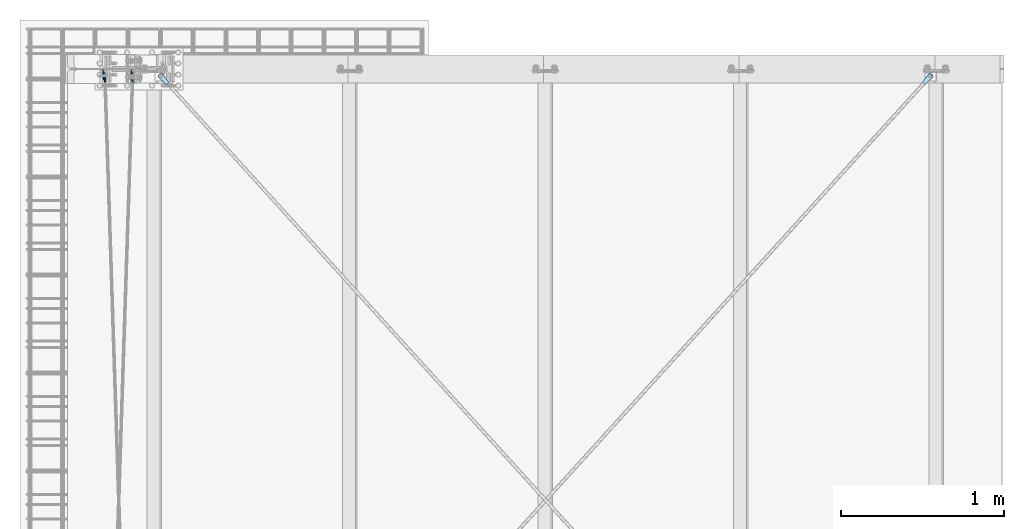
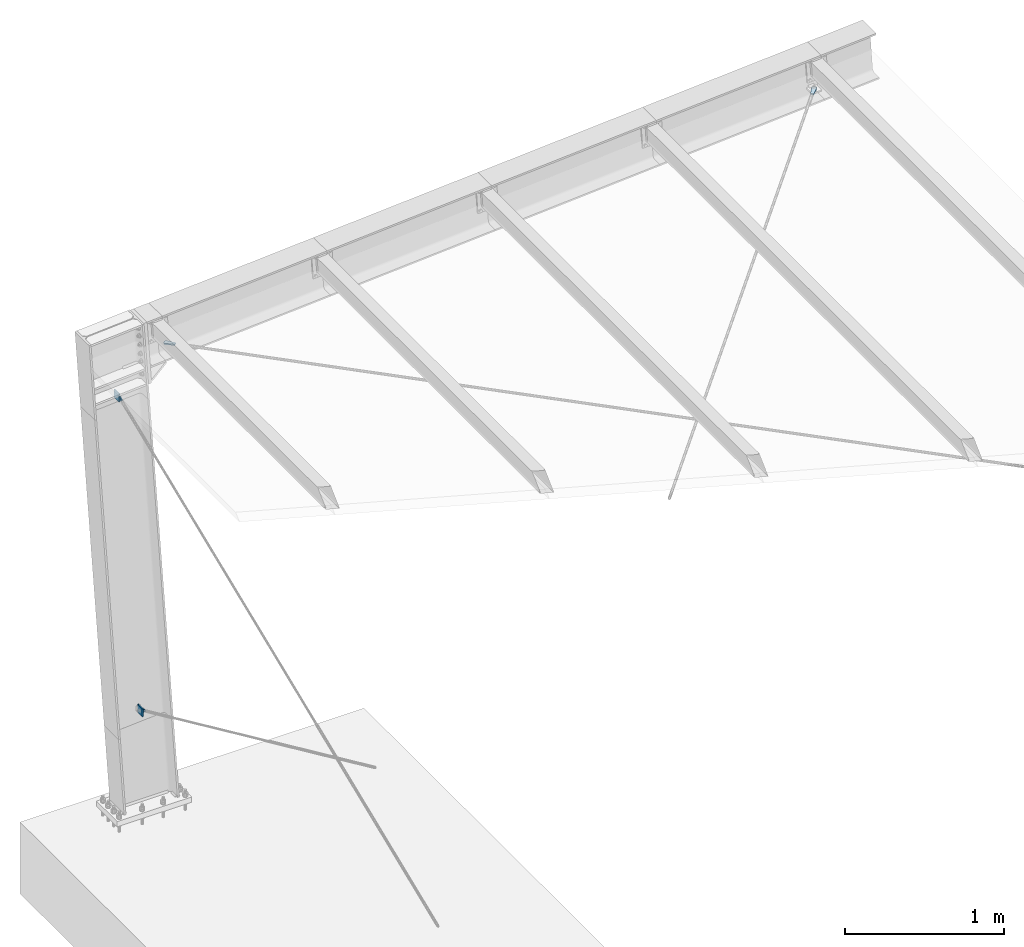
# One storey, part 8 of 72: 6 plates.
"""IFC4 building model written with IfcOpenShell, lengths in metres."""

from ifc_helpers import new_model, si_unit, frame, origin_with_axes, place, context, project, spatial, polyline, outline, extrude, type_object, element, save


model = new_model("IFC4")

# Units and contexts
model_context = context("Model", 3, precision=1e-05, world=origin_with_axes())
ifc_project = project(units=[si_unit("LENGTHUNIT", "METRE"), si_unit("AREAUNIT", "SQUARE_METRE"), si_unit("VOLUMEUNIT", "CUBIC_METRE"), si_unit("MASSUNIT", "GRAM", prefix="KILO"), si_unit("TIMEUNIT", "SECOND"), si_unit("PLANEANGLEUNIT", "RADIAN"), si_unit("SOLIDANGLEUNIT", "STERADIAN"), si_unit("THERMODYNAMICTEMPERATUREUNIT", "DEGREE_CELSIUS")], contexts=[model_context])

# Site, building, storey
placement_1 = place(None, origin_with_axes())
site = spatial("IfcSite", under=ifc_project, at=placement_1, Name="Italia", CompositionType="ELEMENT")
building = spatial("IfcBuilding", under=site, at=placement_1, Name="Pensilina", CompositionType="ELEMENT")
storey = spatial("IfcBuildingStorey", under=building, at=placement_1, Name="Storey 0", CompositionType="ELEMENT", Elevation=0.0)

# Plates
plate_type_1 = type_object("IfcPlateType", Name="Collegamento -200_-204", PredefinedType="SHEET")
placement_2 = place(placement_1, origin_with_axes())
plate_1_placement = place(placement_2, origin_with_axes())
element("IfcPlate", 1, at=plate_1_placement, inside=storey, type_object=plate_type_1, Name="Collegamento -200_-204", context=model_context, shape_type="SweptSolid", body=[
    extrude(outline(polyline([(0.0, 0.0, 0.0), (0.041172, -0.011677, 0.0), (0.0456581, -0.0138451, 0.0), (0.0491371, -0.0174121, 0.0), (0.0511913, -0.0219509, 0.0), (0.0515766, -0.0269182, 0.0), (0.0502472, -0.0317194, 0.0), (0.0494251, -0.0334421, 0.0), (0.0465374, -0.0375025, 0.0), (0.0424404, -0.040336, 0.0), (0.0376225, -0.0416033, 0.0), (0.0326614, -0.0411528, 0.0), (0.0281487, -0.0390384, 0.0), (-0.00687599, -0.0144469, 0.0), (0.0, 0.0, 0.0)])), frame((0.884358, 21.0445, 0.850849), z_axis=(0.999466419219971, -0.032663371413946, 0.0), x_axis=(0.032663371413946, 0.999466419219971, 0.0)), (0.0, 0.0, 1.0), 0.00799999),
])
plate_type_2 = type_object("IfcPlateType", Name="Collegamento -200_-204", PredefinedType="SHEET")
plate_2_placement = place(placement_2, origin_with_axes())
element("IfcPlate", 2, at=plate_2_placement, inside=storey, type_object=plate_type_2, Name="Collegamento -200_-204", context=model_context, shape_type="SweptSolid", body=[
    extrude(outline(polyline([(0.0, 0.0, 0.0), (0.0620041, -1.3113e-06, 0.0), (0.0620041, -0.0620008, 0.0), (-1.90735e-06, -0.0619994, 0.0), (0.0, 0.0, 0.0)])), frame((0.876667, 21.0541, 0.854037), z_axis=(0.999458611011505, -0.032901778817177, 0.0), x_axis=(0.032901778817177, 0.999458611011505, 0.0)), (0.0, 0.0, 1.0), 0.008),
])
plate_type_3 = type_object("IfcPlateType", Name="Collegamento -205_-199", PredefinedType="SHEET")
plate_3_placement = place(placement_2, origin_with_axes())
element("IfcPlate", 3, at=plate_3_placement, inside=storey, type_object=plate_type_3, Name="Collegamento -205_-199", context=model_context, shape_type="SweptSolid", body=[
    extrude(outline(polyline([(0.0, 0.0, 0.0), (0.0350246, 0.0245914, 0.0), (0.0395355, 0.0267057, 0.0), (0.0444984, 0.0271564, 0.0), (0.0493145, 0.0258889, 0.0), (0.0534134, 0.0230556, 0.0), (0.0563011, 0.0189953, 0.0), (0.0571213, 0.0172725, 0.0), (0.0584507, 0.0124712, 0.0), (0.0580654, 0.00750399, 0.0), (0.0560112, 0.00296521, 0.0), (0.0525341, -0.000601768, 0.0), (0.0480461, -0.00276995, 0.0), (0.00687599, -0.014447, 0.0), (0.0, 0.0, 0.0)])), frame((0.716774, 21.0374, 3.29015), z_axis=(0.999466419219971, 0.032663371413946, 0.0), x_axis=(-0.032663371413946, 0.999466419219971, 0.0)), (0.0, 0.0, 1.0), 0.00799999),
])
plate_type_4 = type_object("IfcPlateType", Name="Collegamento -205_-199", PredefinedType="SHEET")
plate_4_placement = place(placement_2, origin_with_axes())
element("IfcPlate", 4, at=plate_4_placement, inside=storey, type_object=plate_type_4, Name="Collegamento -205_-199", context=model_context, shape_type="SweptSolid", body=[
    extrude(outline(polyline([(0.0, 0.0, 0.0), (0.0619984, 4.76837e-07, 0.0), (0.0619984, -0.0619998, 0.0), (0.0, -0.0620003, 0.0), (0.0, 0.0, 0.0)])), frame((0.708248, 21.0533, 3.33351), z_axis=(0.999474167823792, 0.032425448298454, 0.0), x_axis=(-0.032425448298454, 0.999474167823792, 0.0)), (0.0, 0.0, 1.0), 0.00799987),
])
plate_type_5 = type_object("IfcPlateType", Name="Collegamento 0205_0604", PredefinedType="SHEET")
plate_5_placement = place(placement_2, origin_with_axes())
element("IfcPlate", 5, at=plate_5_placement, inside=storey, type_object=plate_type_5, Name="Collegamento 0205_0604", context=model_context, shape_type="SweptSolid", body=[
    extrude(outline(polyline([(0.0, 0.0, 0.0), (0.00629425, -0.0590734, 0.0), (0.00599957, -0.0638714, 0.0), (0.00414181, -0.0683041, 0.0), (0.000926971, -0.0718794, 0.0), (-0.00328541, -0.0741968, 0.0), (-0.00802517, -0.0749998, 0.0), (-0.0119896, -0.0749989, 0.0), (-0.0167284, -0.0741959, 0.0), (-0.0209417, -0.0718784, 0.0), (-0.0241547, -0.0683031, 0.0), (-0.0260115, -0.0638685, 0.0), (-0.0263071, -0.0590706, 0.0), (-0.0200014, 9.53674e-07, 0.0), (0.0, 0.0, 0.0)])), frame((1.09668, 21.0247, 3.58711), z_axis=(-0.030970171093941, 0.034141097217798, 0.99893707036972), x_axis=(-0.740665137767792, -0.671874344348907, 0.0)), (0.0, 0.0, 1.0), 0.0100001),
])
plate_type_6 = type_object("IfcPlateType", Name="Collegamento 0605_0204", PredefinedType="SHEET")
plate_6_placement = place(placement_2, origin_with_axes())
element("IfcPlate", 6, at=plate_6_placement, inside=storey, type_object=plate_type_6, Name="Collegamento 0605_0204", context=model_context, shape_type="SweptSolid", body=[
    extrude(outline(polyline([(0.0, 0.0, 0.0), (-0.00631809, 0.0590687, 0.0), (-0.00602341, 0.0638676, 0.0), (-0.00416756, 0.0683022, 0.0), (-0.000954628, 0.0718784, 0.0), (0.0032568, 0.0741978, 0.0), (0.00799656, 0.0750027, 0.0), (0.011961, 0.0750027, 0.0), (0.0167007, 0.0742016, 0.0), (0.0209141, 0.0718861, 0.0), (0.0241289, 0.0683117, 0.0), (0.0259876, 0.0638771, 0.0), (0.0262852, 0.0590801, 0.0), (0.0200014, 5.72205e-06, 0.0), (0.0, 0.0, 0.0)])), frame((5.73957, 21.0247, 3.89506), z_axis=(0.030946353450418, 0.03414112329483, -0.998937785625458), x_axis=(-0.740922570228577, 0.671590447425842, 0.0)), (0.0, 0.0, 1.0), 0.0100001),
])

save(model, "model.ifc")
